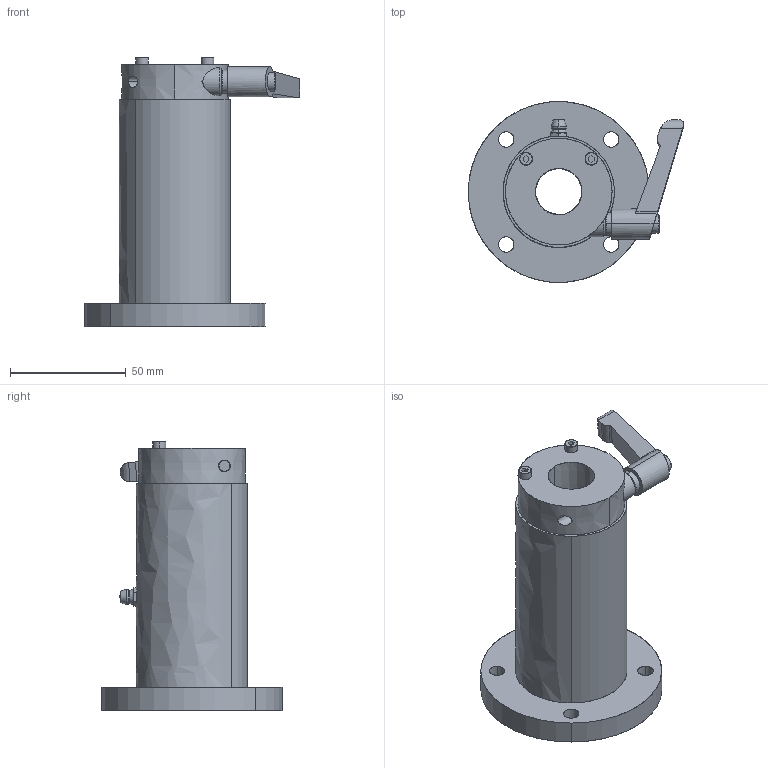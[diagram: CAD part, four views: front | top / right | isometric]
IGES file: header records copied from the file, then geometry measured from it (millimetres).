
Start section: SolidWorks IGES file using analytic representation for surfaces
Global section: file name: C:\Users\yamad\Desktop\IGES\LFW20-OH-CS.IGS; native system: SolidWorks 2019; preprocessor: SolidWorks 2019; author: yamad; date: 230626.165904; units: millimetre
Bounding box: 92.9 x 78 x 116 mm (x, y, z)
Surface area: 46711.2 mm2 (no closed solid volume)
Topology: 0 solids, 0 shells, 224 faces, 5447 edges, 5445 vertices
Faces by surface type: bspline 120, revolution 104
